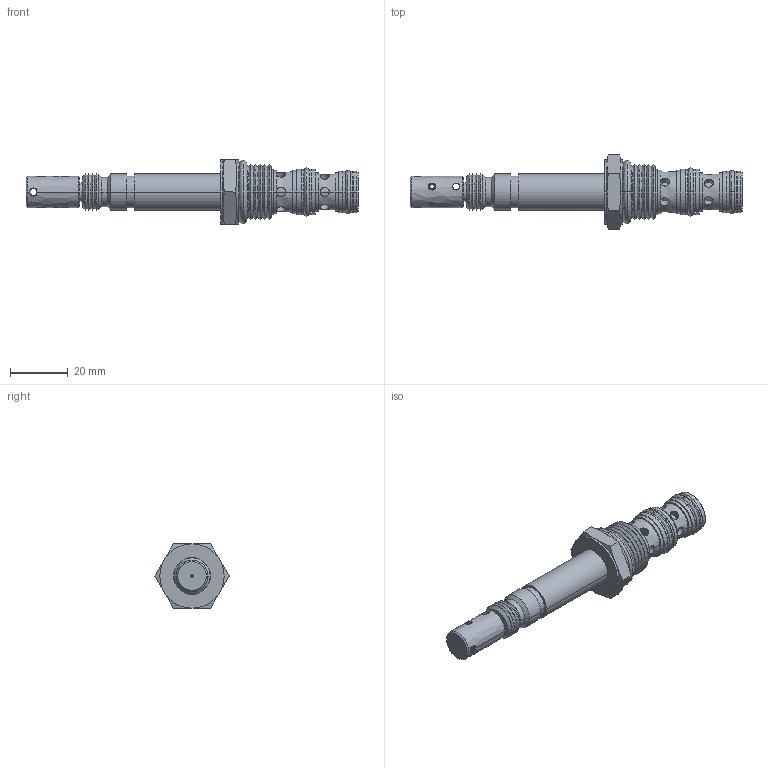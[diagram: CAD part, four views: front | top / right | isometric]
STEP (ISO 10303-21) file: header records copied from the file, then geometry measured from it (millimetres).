
FILE_DESCRIPTION((''),'2;1');
FILE_NAME('U:\Solid model CD\Solid model full\Solenoid\STEP\PPS3A0M-3D Full.stp','2008-06-23T11:36:12',('Dan'),(''),'Autodesk Inventor 9','Autodesk Inventor 9','');
FILE_SCHEMA(('AUTOMOTIVE_DESIGN { 1 0 10303 214 1 1 1 1 }'));
Length unit declared in the file: inch
Products named in the file (10): PPS3A0M-3D Full; PPS3A0M-3D Full1; PPS3A0M-3D Full2; PPS3A0M-3D Full3; PPS3A0M-3D Full4; PPS3A0M-3D Full5; PPS3A0M-3D Full6; PPS3A0M-3D Full7; PPS3A0M-3D Full8; PPS3A0M-3D Full9
Assembly tree (9 placements, depth 2):
  PPS3A0M-3D Full
    PPS3A0M-3D Full1
    PPS3A0M-3D Full2
    PPS3A0M-3D Full3
    PPS3A0M-3D Full4
    PPS3A0M-3D Full5
    PPS3A0M-3D Full6
    PPS3A0M-3D Full7
    PPS3A0M-3D Full8
    PPS3A0M-3D Full9
Bounding box: 114.81 x 25.66 x 22.23 mm (x, y, z)
Volume: 17227.6 mm3; surface area: 9142.9 mm2
Topology: 9 solids, 9 shells, 339 faces, 757 edges, 451 vertices
Faces by surface type: bspline 304, cylinder 22, cone 8, plane 5
Entity records: 14545 total; most frequent: CARTESIAN_POINT 7952, ORIENTED_EDGE 1514, DIRECTION 1060, EDGE_CURVE 757, VERTEX_POINT 451, AXIS2_PLACEMENT_3D 395, EDGE_LOOP 376, CIRCLE 341
